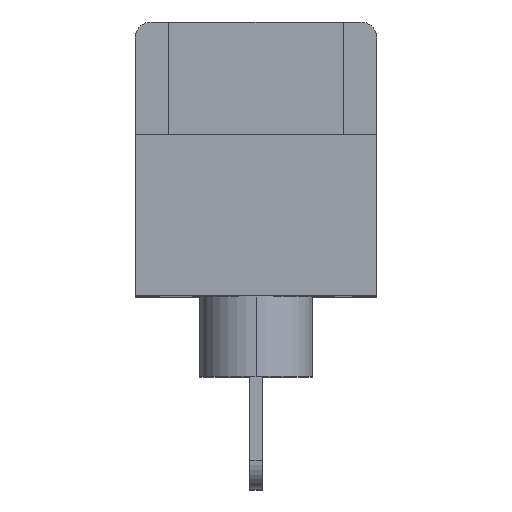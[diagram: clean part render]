
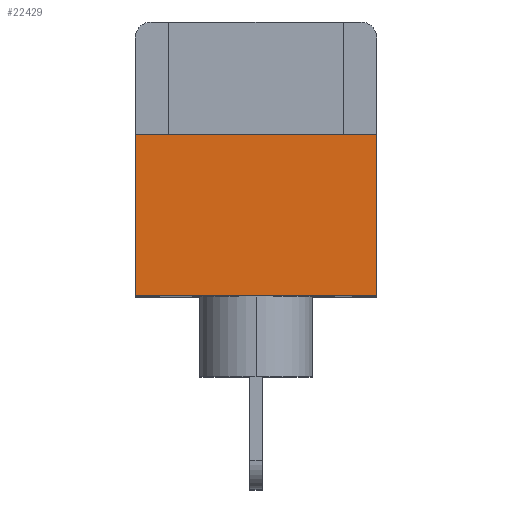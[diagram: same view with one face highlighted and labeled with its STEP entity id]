
A CAD part, top view. The second image highlights one B-rep face of the part: STEP entity #22429.
In plain terms, the highlighted planar face has unit normal (0, 0, 1).
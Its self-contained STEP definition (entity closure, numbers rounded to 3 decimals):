
#71=DIRECTION('',(1.,0.,0.));
#72=VECTOR('',#71,15.);
#73=CARTESIAN_POINT('',(0.,15.,-20.));
#74=LINE('',#73,#72);
#324=DIRECTION('',(0.,1.,0.));
#325=VECTOR('',#324,10.);
#326=CARTESIAN_POINT('',(0.,5.,-20.));
#327=LINE('',#326,#325);
#500=DIRECTION('',(1.,0.,0.));
#501=VECTOR('',#500,15.);
#502=CARTESIAN_POINT('',(0.,5.,-20.));
#503=LINE('',#502,#501);
#504=DIRECTION('',(0.,1.,0.));
#505=VECTOR('',#504,10.);
#506=CARTESIAN_POINT('',(15.,5.,-20.));
#507=LINE('',#506,#505);
#19844=CARTESIAN_POINT('',(0.,5.,-20.));
#19845=VERTEX_POINT('',#19844);
#19846=CARTESIAN_POINT('',(15.,5.,-20.));
#19847=VERTEX_POINT('',#19846);
#19896=CARTESIAN_POINT('',(15.,15.,-20.));
#19897=VERTEX_POINT('',#19896);
#19918=CARTESIAN_POINT('',(0.,15.,-20.));
#19919=VERTEX_POINT('',#19918);
#22418=CARTESIAN_POINT('',(7.5,5.,-20.));
#22419=DIRECTION('',(0.,0.,-1.));
#22420=DIRECTION('',(-1.,0.,0.));
#22421=AXIS2_PLACEMENT_3D('',#22418,#22419,#22420);
#22422=PLANE('',#22421);
#22423=ORIENTED_EDGE('',*,*,#21900,.F.);
#22424=ORIENTED_EDGE('',*,*,#22111,.T.);
#22425=ORIENTED_EDGE('',*,*,#21556,.T.);
#22426=ORIENTED_EDGE('',*,*,#22248,.F.);
#22427=EDGE_LOOP('',(#22423,#22424,#22425,#22426));
#22428=FACE_OUTER_BOUND('',#22427,.F.);
#22429=ADVANCED_FACE('',(#22428),#22422,.F.);
#21556=EDGE_CURVE('',#19919,#19897,#74,.T.);
#21900=EDGE_CURVE('',#19845,#19847,#503,.T.);
#22111=EDGE_CURVE('',#19845,#19919,#327,.T.);
#22248=EDGE_CURVE('',#19847,#19897,#507,.T.);
